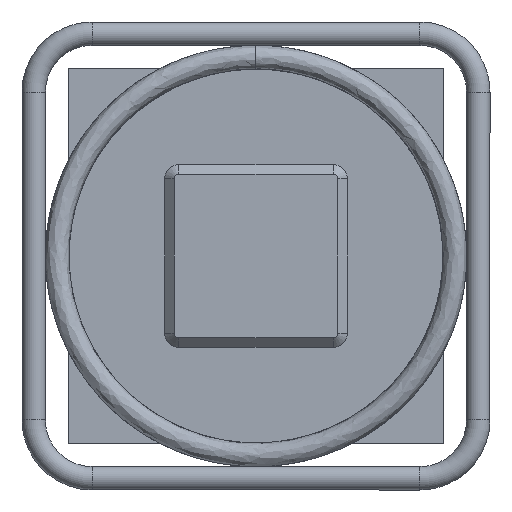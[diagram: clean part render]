
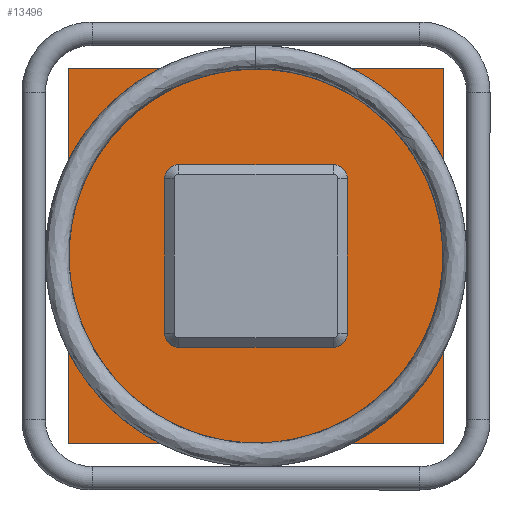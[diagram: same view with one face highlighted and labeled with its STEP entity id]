
A CAD part, front view. The second image highlights one B-rep face of the part: STEP entity #13496.
In plain terms, the highlighted planar face has unit normal (0, -1, 0).
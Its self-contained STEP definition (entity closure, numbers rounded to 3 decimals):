
#1127=LINE('',#25791,#2264);
#1130=LINE('',#25802,#2267);
#1134=LINE('',#25814,#2271);
#1138=LINE('',#25826,#2275);
#1145=LINE('',#25843,#2282);
#1146=LINE('',#25845,#2283);
#1147=LINE('',#25847,#2284);
#1148=LINE('',#25848,#2285);
#2264=VECTOR('',#15803,66.);
#2267=VECTOR('',#15814,66.);
#2271=VECTOR('',#15826,66.);
#2275=VECTOR('',#15838,66.);
#2282=VECTOR('',#15861,160.);
#2283=VECTOR('',#15862,160.);
#2284=VECTOR('',#15863,160.);
#2285=VECTOR('',#15864,160.);
#3633=PLANE('',#13914);
#3720=FACE_BOUND('',#5207,.T.);
#4419=FACE_OUTER_BOUND('',#5206,.T.);
#5206=EDGE_LOOP('',(#12010,#12011,#12012,#12013));
#5207=EDGE_LOOP('',(#12014,#12015,#12016,#12017,#12018,#12019,#12020,#12021));
#5276=CIRCLE('',#13896,6.);
#5278=CIRCLE('',#13900,6.);
#5280=CIRCLE('',#13904,6.);
#5282=CIRCLE('',#13908,6.);
#6506=VERTEX_POINT('',#25784);
#6509=VERTEX_POINT('',#25789);
#6511=VERTEX_POINT('',#25794);
#6513=VERTEX_POINT('',#25800);
#6515=VERTEX_POINT('',#25806);
#6517=VERTEX_POINT('',#25812);
#6519=VERTEX_POINT('',#25818);
#6521=VERTEX_POINT('',#25824);
#6522=VERTEX_POINT('',#25841);
#6523=VERTEX_POINT('',#25842);
#6524=VERTEX_POINT('',#25844);
#6525=VERTEX_POINT('',#25846);
#8337=EDGE_CURVE('',#6509,#6506,#1127,.T.);
#8339=EDGE_CURVE('',#6511,#6509,#5276,.T.);
#8342=EDGE_CURVE('',#6513,#6511,#1130,.T.);
#8345=EDGE_CURVE('',#6515,#6513,#5278,.T.);
#8348=EDGE_CURVE('',#6517,#6515,#1134,.T.);
#8351=EDGE_CURVE('',#6519,#6517,#5280,.T.);
#8354=EDGE_CURVE('',#6521,#6519,#1138,.T.);
#8356=EDGE_CURVE('',#6506,#6521,#5282,.T.);
#8363=EDGE_CURVE('',#6522,#6523,#1145,.T.);
#8364=EDGE_CURVE('',#6524,#6522,#1146,.T.);
#8365=EDGE_CURVE('',#6525,#6524,#1147,.T.);
#8366=EDGE_CURVE('',#6523,#6525,#1148,.T.);
#12010=ORIENTED_EDGE('',*,*,#8363,.F.);
#12011=ORIENTED_EDGE('',*,*,#8364,.F.);
#12012=ORIENTED_EDGE('',*,*,#8365,.F.);
#12013=ORIENTED_EDGE('',*,*,#8366,.F.);
#12014=ORIENTED_EDGE('',*,*,#8337,.F.);
#12015=ORIENTED_EDGE('',*,*,#8339,.F.);
#12016=ORIENTED_EDGE('',*,*,#8342,.F.);
#12017=ORIENTED_EDGE('',*,*,#8345,.F.);
#12018=ORIENTED_EDGE('',*,*,#8348,.F.);
#12019=ORIENTED_EDGE('',*,*,#8351,.F.);
#12020=ORIENTED_EDGE('',*,*,#8354,.F.);
#12021=ORIENTED_EDGE('',*,*,#8356,.F.);
#13496=ADVANCED_FACE('',(#4419,#3720),#3633,.F.);
#13896=AXIS2_PLACEMENT_3D('',#25796,#15807,#15808);
#13900=AXIS2_PLACEMENT_3D('',#25808,#15819,#15820);
#13904=AXIS2_PLACEMENT_3D('',#25820,#15831,#15832);
#13908=AXIS2_PLACEMENT_3D('',#25829,#15842,#15843);
#13914=AXIS2_PLACEMENT_3D('',#25840,#15859,#15860);
#15803=DIRECTION('',(-1.,0.,0.));
#15807=DIRECTION('center_axis',(0.,-1.,0.));
#15808=DIRECTION('ref_axis',(1.,0.,0.));
#15814=DIRECTION('',(0.,0.,1.));
#15819=DIRECTION('center_axis',(0.,-1.,0.));
#15820=DIRECTION('ref_axis',(0.,0.,-1.));
#15826=DIRECTION('',(1.,0.,0.));
#15831=DIRECTION('center_axis',(0.,-1.,0.));
#15832=DIRECTION('ref_axis',(-1.,0.,0.));
#15838=DIRECTION('',(0.,0.,-1.));
#15842=DIRECTION('center_axis',(0.,-1.,0.));
#15843=DIRECTION('ref_axis',(0.,0.,1.));
#15859=DIRECTION('center_axis',(0.,1.,0.));
#15860=DIRECTION('ref_axis',(0.,0.,1.));
#15861=DIRECTION('',(-1.,0.,0.));
#15862=DIRECTION('',(0.,0.,-1.));
#15863=DIRECTION('',(1.,0.,0.));
#15864=DIRECTION('',(0.,0.,1.));
#25784=CARTESIAN_POINT('',(-33.,0.,39.));
#25789=CARTESIAN_POINT('',(33.,0.,39.));
#25791=CARTESIAN_POINT('',(-16.5,0.,39.));
#25794=CARTESIAN_POINT('',(39.,0.,33.));
#25796=CARTESIAN_POINT('Origin',(33.,0.,33.));
#25800=CARTESIAN_POINT('',(39.,0.,-33.));
#25802=CARTESIAN_POINT('',(39.,0.,16.5));
#25806=CARTESIAN_POINT('',(33.,0.,-39.));
#25808=CARTESIAN_POINT('Origin',(33.,0.,-33.));
#25812=CARTESIAN_POINT('',(-33.,0.,-39.));
#25814=CARTESIAN_POINT('',(16.5,0.,-39.));
#25818=CARTESIAN_POINT('',(-39.,0.,-33.));
#25820=CARTESIAN_POINT('Origin',(-33.,0.,-33.));
#25824=CARTESIAN_POINT('',(-39.,0.,33.));
#25826=CARTESIAN_POINT('',(-39.,0.,-16.5));
#25829=CARTESIAN_POINT('Origin',(-33.,0.,33.));
#25840=CARTESIAN_POINT('Origin',(0.,0.,0.));
#25841=CARTESIAN_POINT('',(80.,0.,-80.));
#25842=CARTESIAN_POINT('',(-80.,0.,-80.));
#25843=CARTESIAN_POINT('',(80.,0.,-80.));
#25844=CARTESIAN_POINT('',(80.,0.,80.));
#25845=CARTESIAN_POINT('',(80.,0.,80.));
#25846=CARTESIAN_POINT('',(-80.,0.,80.));
#25847=CARTESIAN_POINT('',(-80.,0.,80.));
#25848=CARTESIAN_POINT('',(-80.,0.,-80.));
